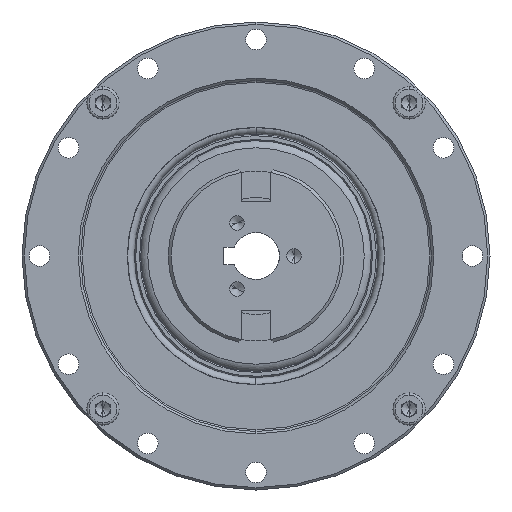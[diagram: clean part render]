
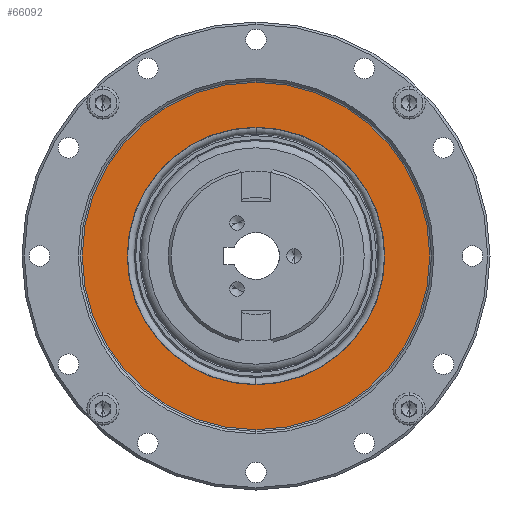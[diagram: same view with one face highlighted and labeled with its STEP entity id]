
A CAD part, left-side view. The second image highlights one B-rep face of the part: STEP entity #66092.
In plain terms, the highlighted planar face has unit normal (-1, 0, 0).
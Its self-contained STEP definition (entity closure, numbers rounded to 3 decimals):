
#672 = CIRCLE ( 'NONE', #22984, 29.7 ) ;
#2774 = AXIS2_PLACEMENT_3D ( 'NONE', #4944, #46905, #10934 ) ;
#4944 = CARTESIAN_POINT ( 'NONE',  ( 2.86, 0., 0. ) ) ;
#9707 = DIRECTION ( 'NONE',  ( 1., 0., 0. ) ) ;
#10012 = ORIENTED_EDGE ( 'NONE', *, *, #38632, .T. ) ;
#10934 = DIRECTION ( 'NONE',  ( 0., 0., 1. ) ) ;
#13330 = EDGE_LOOP ( 'NONE', ( #10012, #18433 ) ) ;
#15024 = EDGE_CURVE ( 'NONE', #59959, #62373, #30734, .T. ) ;
#16882 = AXIS2_PLACEMENT_3D ( 'NONE', #18156, #60173, #24172 ) ;
#16925 = CARTESIAN_POINT ( 'NONE',  ( 2.86, 0., -21.961 ) ) ;
#17589 = EDGE_LOOP ( 'NONE', ( #68270, #19850 ) ) ;
#18156 = CARTESIAN_POINT ( 'NONE',  ( 2.86, 0., 0. ) ) ;
#18433 = ORIENTED_EDGE ( 'NONE', *, *, #25109, .T. ) ;
#19850 = ORIENTED_EDGE ( 'NONE', *, *, #21966, .F. ) ;
#21966 = EDGE_CURVE ( 'NONE', #62373, #59959, #51600, .T. ) ;
#22984 = AXIS2_PLACEMENT_3D ( 'NONE', #23928, #65968, #29985 ) ;
#23928 = CARTESIAN_POINT ( 'NONE',  ( 2.86, 0., 0. ) ) ;
#24172 = DIRECTION ( 'NONE',  ( 0., 0., 1. ) ) ;
#25109 = EDGE_CURVE ( 'NONE', #27065, #35835, #672, .T. ) ;
#27065 = VERTEX_POINT ( 'NONE', #33117 ) ;
#27706 = AXIS2_PLACEMENT_3D ( 'NONE', #70665, #34678, #76745 ) ;
#29985 = DIRECTION ( 'NONE',  ( 0., 0., 1. ) ) ;
#30734 = CIRCLE ( 'NONE', #16882, 21.961 ) ;
#33117 = CARTESIAN_POINT ( 'NONE',  ( 2.86, 0., -29.7 ) ) ;
#34678 = DIRECTION ( 'NONE',  ( -1., 0., 0. ) ) ;
#35835 = VERTEX_POINT ( 'NONE', #62409 ) ;
#38632 = EDGE_CURVE ( 'NONE', #35835, #27065, #64314, .T. ) ;
#38718 = CARTESIAN_POINT ( 'NONE',  ( 2.86, 0., 21.961 ) ) ;
#45692 = PLANE ( 'NONE',  #71925 ) ;
#46905 = DIRECTION ( 'NONE',  ( -1., 0., 0. ) ) ;
#49794 = FACE_BOUND ( 'NONE', #17589, .T. ) ;
#51600 = CIRCLE ( 'NONE', #2774, 21.961 ) ;
#51703 = DIRECTION ( 'NONE',  ( 0., 0., -1. ) ) ;
#59959 = VERTEX_POINT ( 'NONE', #38718 ) ;
#60173 = DIRECTION ( 'NONE',  ( -1., 0., 0. ) ) ;
#62373 = VERTEX_POINT ( 'NONE', #16925 ) ;
#62409 = CARTESIAN_POINT ( 'NONE',  ( 2.86, 0., 29.7 ) ) ;
#64314 = CIRCLE ( 'NONE', #27706, 29.7 ) ;
#65968 = DIRECTION ( 'NONE',  ( -1., 0., 0. ) ) ;
#66092 = ADVANCED_FACE ( 'NONE', ( #49794, #69536 ), #45692, .F. ) ;
#68270 = ORIENTED_EDGE ( 'NONE', *, *, #15024, .F. ) ;
#69536 = FACE_OUTER_BOUND ( 'NONE', #13330, .T. ) ;
#70665 = CARTESIAN_POINT ( 'NONE',  ( 2.86, 0., 0. ) ) ;
#71925 = AXIS2_PLACEMENT_3D ( 'NONE', #75651, #9707, #51703 ) ;
#75651 = CARTESIAN_POINT ( 'NONE',  ( 2.86, 29.7, 0. ) ) ;
#76745 = DIRECTION ( 'NONE',  ( 0., 0., 1. ) ) ;
